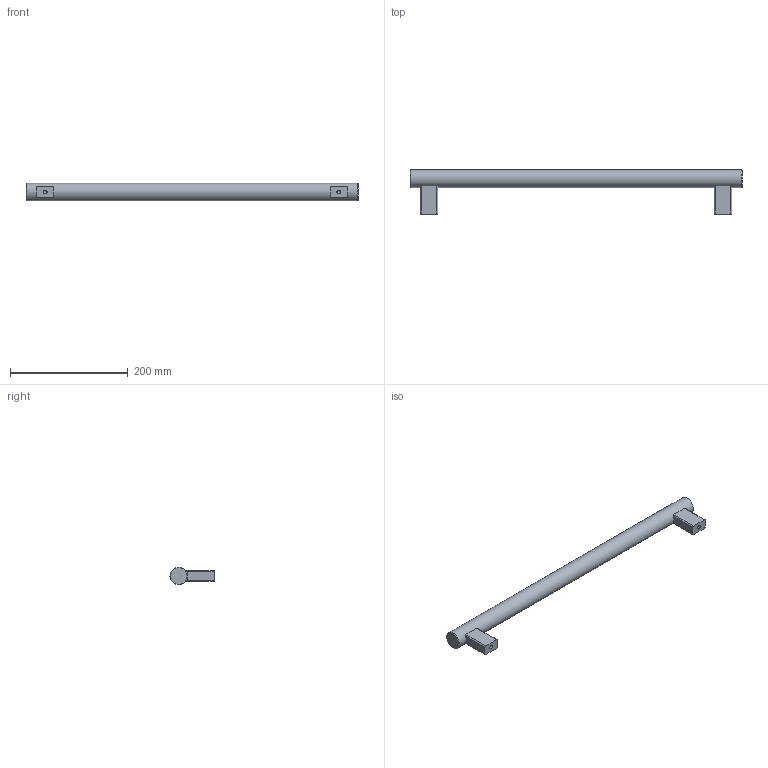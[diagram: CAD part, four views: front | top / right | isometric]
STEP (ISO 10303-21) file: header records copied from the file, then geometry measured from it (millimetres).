
FILE_DESCRIPTION( ( 'STEP AP203' ), '1' );
FILE_NAME( 'C:/Temp/Ganter_Step_05_03_2020/data/1_2/gn_666/Tubular handle GN 666-30-M8-500-NG.stp', '2020-03-05T10:18:24', ( 'License CC BY-ND 4.0' ), ( 'CADENAS' ), ' ', 'PARTsolutions', ' ' );
FILE_SCHEMA( ( 'CONFIG_CONTROL_DESIGN' ) );
Length unit declared in the file: millimetre
Products named in the file (1): _Tubular handle GN 666-30-M8-500-NG
Bounding box: 565 x 75 x 30 mm (x, y, z)
Volume: 447294.5 mm3; surface area: 63974 mm2
Topology: 1 solids, 1 shells, 27 faces, 65 edges, 42 vertices
Faces by surface type: plane 12, cylinder 11, cone 4
Full cylindrical faces by diameter (mm): 6.647 x2, 30 x1
Entity records: 882 total; most frequent: CARTESIAN_POINT 238, DIRECTION 124, ORIENTED_EDGE 112, EDGE_CURVE 56, AXIS2_PLACEMENT_3D 48, VERTEX_POINT 42, EDGE_LOOP 36, FACE_OUTER_BOUND 30
